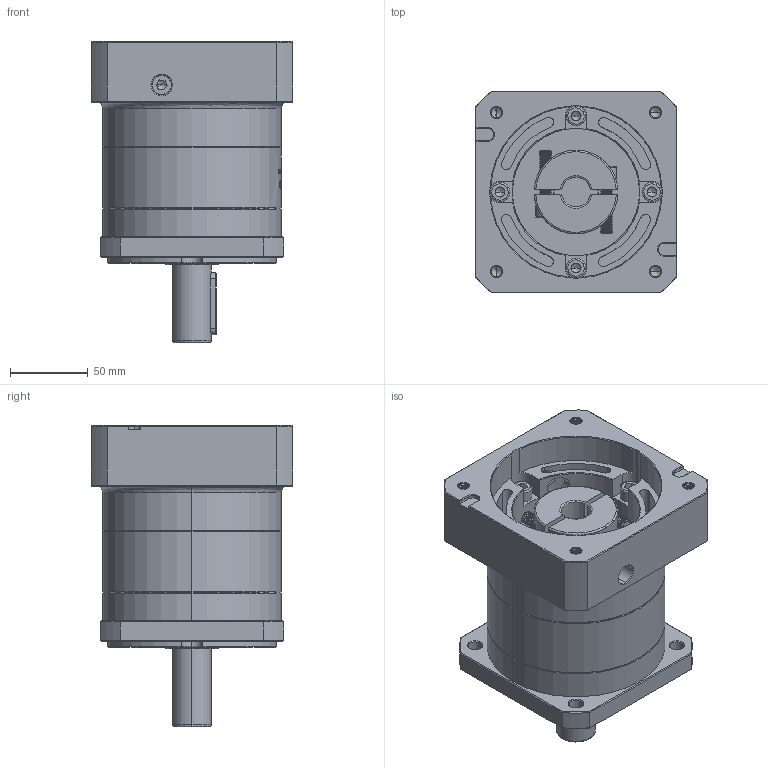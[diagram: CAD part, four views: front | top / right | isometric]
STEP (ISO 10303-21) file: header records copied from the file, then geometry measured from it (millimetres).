
FILE_DESCRIPTION (( 'STEP AP214' ), '1' );
FILE_NAME ('ZF120A-D25-L1-19-110-145-M8.step', '2023-03-07T09:27:42', ( '' ), ( '' ), 'SwSTEP 2.0', 'SolidWorks 2016', '' );
FILE_SCHEMA (( 'AUTOMOTIVE_DESIGN' ));
Length unit declared in the file: millimetre
Products named in the file (1): ZF120A-D25-L1-19-110-145-M8
Bounding box: 130 x 130 x 194 mm (x, y, z)
Volume: 1456580.6 mm3; surface area: 181869.4 mm2
Topology: 6 solids, 6 shells, 2001 faces, 5274 edges, 3365 vertices
Faces by surface type: plane 883, cylinder 449, cone 327, bspline 323, torus 19
Entity records: 110288 total; most frequent: CARTESIAN_POINT 42634, ORIENTED_EDGE 10488, DIRECTION 8163, EDGE_CURVE 5244, VERTEX_POINT 3365, LINE 2823, VECTOR 2823, AXIS2_PLACEMENT_3D 2670
